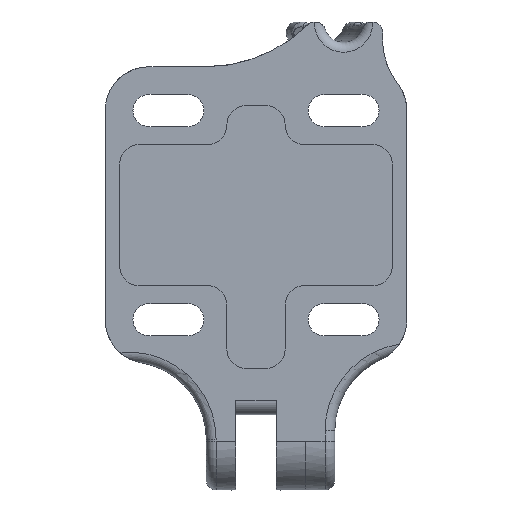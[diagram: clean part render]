
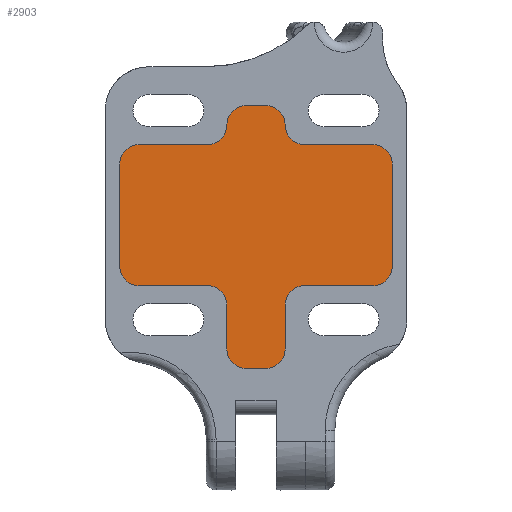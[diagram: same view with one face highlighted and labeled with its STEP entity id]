
A CAD part, front view. The second image highlights one B-rep face of the part: STEP entity #2903.
In plain terms, the highlighted planar face has unit normal (0, -1, 0).
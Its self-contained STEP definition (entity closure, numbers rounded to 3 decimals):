
#978=AXIS2_PLACEMENT_3D('Circle Axis2P3D',#976,#977,$) ;
#1049=AXIS2_PLACEMENT_3D('Circle Axis2P3D',#1047,#1048,$) ;
#1111=AXIS2_PLACEMENT_3D('Circle Axis2P3D',#1109,#1110,$) ;
#1173=AXIS2_PLACEMENT_3D('Circle Axis2P3D',#1171,#1172,$) ;
#1235=AXIS2_PLACEMENT_3D('Circle Axis2P3D',#1233,#1234,$) ;
#1292=AXIS2_PLACEMENT_3D('Circle Axis2P3D',#1290,#1291,$) ;
#1354=AXIS2_PLACEMENT_3D('Circle Axis2P3D',#1352,#1353,$) ;
#1416=AXIS2_PLACEMENT_3D('Circle Axis2P3D',#1414,#1415,$) ;
#1447=AXIS2_PLACEMENT_3D('Circle Axis2P3D',#1445,#1446,$) ;
#1509=AXIS2_PLACEMENT_3D('Circle Axis2P3D',#1507,#1508,$) ;
#1540=AXIS2_PLACEMENT_3D('Circle Axis2P3D',#1538,#1539,$) ;
#1597=AXIS2_PLACEMENT_3D('Circle Axis2P3D',#1595,#1596,$) ;
#2877=AXIS2_PLACEMENT_3D('Plane Axis2P3D',#2874,#2875,#2876) ;
#976=CARTESIAN_POINT('Axis2P3D Location',(-12.,-6.5,18.)) ;
#980=CARTESIAN_POINT('Vertex',(-12.,-6.5,16.)) ;
#982=CARTESIAN_POINT('Vertex',(-14.,-6.5,18.)) ;
#1016=CARTESIAN_POINT('Line Origine',(-8.5,-6.5,16.)) ;
#1020=CARTESIAN_POINT('Vertex',(-5.,-6.5,16.)) ;
#1047=CARTESIAN_POINT('Axis2P3D Location',(-5.,-6.5,14.)) ;
#1051=CARTESIAN_POINT('Vertex',(-3.,-6.5,14.)) ;
#1078=CARTESIAN_POINT('Line Origine',(-3.,-6.5,11.75)) ;
#1082=CARTESIAN_POINT('Vertex',(-3.,-6.5,9.5)) ;
#1109=CARTESIAN_POINT('Axis2P3D Location',(-1.,-6.5,9.5)) ;
#1113=CARTESIAN_POINT('Vertex',(-1.,-6.5,7.5)) ;
#1140=CARTESIAN_POINT('Line Origine',(0.,-6.5,7.5)) ;
#1144=CARTESIAN_POINT('Vertex',(1.,-6.5,7.5)) ;
#1171=CARTESIAN_POINT('Axis2P3D Location',(1.,-6.5,9.5)) ;
#1175=CARTESIAN_POINT('Vertex',(3.,-6.5,9.5)) ;
#1202=CARTESIAN_POINT('Line Origine',(3.,-6.5,11.75)) ;
#1206=CARTESIAN_POINT('Vertex',(3.,-6.5,14.)) ;
#1233=CARTESIAN_POINT('Axis2P3D Location',(5.,-6.5,14.)) ;
#1237=CARTESIAN_POINT('Vertex',(5.,-6.5,16.)) ;
#1259=CARTESIAN_POINT('Line Origine',(8.5,-6.5,16.)) ;
#1263=CARTESIAN_POINT('Vertex',(12.,-6.5,16.)) ;
#1290=CARTESIAN_POINT('Axis2P3D Location',(12.,-6.5,18.)) ;
#1294=CARTESIAN_POINT('Vertex',(14.,-6.5,18.)) ;
#1321=CARTESIAN_POINT('Line Origine',(14.,-6.5,23.25)) ;
#1325=CARTESIAN_POINT('Vertex',(14.,-6.5,28.5)) ;
#1352=CARTESIAN_POINT('Axis2P3D Location',(12.,-6.5,28.5)) ;
#1356=CARTESIAN_POINT('Vertex',(12.,-6.5,30.5)) ;
#1383=CARTESIAN_POINT('Line Origine',(8.5,-6.5,30.5)) ;
#1387=CARTESIAN_POINT('Vertex',(5.,-6.5,30.5)) ;
#1414=CARTESIAN_POINT('Axis2P3D Location',(5.,-6.5,32.5)) ;
#1418=CARTESIAN_POINT('Vertex',(3.,-6.5,32.5)) ;
#1445=CARTESIAN_POINT('Axis2P3D Location',(1.,-6.5,32.5)) ;
#1449=CARTESIAN_POINT('Vertex',(1.,-6.5,34.5)) ;
#1476=CARTESIAN_POINT('Line Origine',(0.,-6.5,34.5)) ;
#1480=CARTESIAN_POINT('Vertex',(-1.,-6.5,34.5)) ;
#1507=CARTESIAN_POINT('Axis2P3D Location',(-1.,-6.5,32.5)) ;
#1511=CARTESIAN_POINT('Vertex',(-3.,-6.5,32.5)) ;
#1538=CARTESIAN_POINT('Axis2P3D Location',(-5.,-6.5,32.5)) ;
#1542=CARTESIAN_POINT('Vertex',(-5.,-6.5,30.5)) ;
#1564=CARTESIAN_POINT('Line Origine',(-8.5,-6.5,30.5)) ;
#1568=CARTESIAN_POINT('Vertex',(-12.,-6.5,30.5)) ;
#1595=CARTESIAN_POINT('Axis2P3D Location',(-12.,-6.5,28.5)) ;
#1599=CARTESIAN_POINT('Vertex',(-14.,-6.5,28.5)) ;
#1626=CARTESIAN_POINT('Line Origine',(-14.,-6.5,23.25)) ;
#2874=CARTESIAN_POINT('Axis2P3D Location',(0.,-6.5,0.)) ;
#977=DIRECTION('Axis2P3D Direction',(0.,1.,-0.)) ;
#1017=DIRECTION('Vector Direction',(1.,0.,0.)) ;
#1048=DIRECTION('Axis2P3D Direction',(0.,1.,-0.)) ;
#1079=DIRECTION('Vector Direction',(0.,0.,-1.)) ;
#1110=DIRECTION('Axis2P3D Direction',(0.,1.,-0.)) ;
#1141=DIRECTION('Vector Direction',(1.,0.,0.)) ;
#1172=DIRECTION('Axis2P3D Direction',(0.,1.,-0.)) ;
#1203=DIRECTION('Vector Direction',(0.,0.,1.)) ;
#1234=DIRECTION('Axis2P3D Direction',(0.,1.,-0.)) ;
#1260=DIRECTION('Vector Direction',(1.,0.,0.)) ;
#1291=DIRECTION('Axis2P3D Direction',(0.,1.,-0.)) ;
#1322=DIRECTION('Vector Direction',(0.,0.,1.)) ;
#1353=DIRECTION('Axis2P3D Direction',(0.,1.,-0.)) ;
#1384=DIRECTION('Vector Direction',(-1.,0.,0.)) ;
#1415=DIRECTION('Axis2P3D Direction',(0.,1.,-0.)) ;
#1446=DIRECTION('Axis2P3D Direction',(0.,1.,-0.)) ;
#1477=DIRECTION('Vector Direction',(-1.,0.,0.)) ;
#1508=DIRECTION('Axis2P3D Direction',(0.,1.,-0.)) ;
#1539=DIRECTION('Axis2P3D Direction',(0.,1.,-0.)) ;
#1565=DIRECTION('Vector Direction',(-1.,0.,0.)) ;
#1596=DIRECTION('Axis2P3D Direction',(0.,1.,-0.)) ;
#1627=DIRECTION('Vector Direction',(0.,0.,-1.)) ;
#2875=DIRECTION('Axis2P3D Direction',(0.,1.,-0.)) ;
#2876=DIRECTION('Axis2P3D XDirection',(-1.,0.,0.)) ;
#1018=VECTOR('Line Direction',#1017,1.) ;
#1080=VECTOR('Line Direction',#1079,1.) ;
#1142=VECTOR('Line Direction',#1141,1.) ;
#1204=VECTOR('Line Direction',#1203,1.) ;
#1261=VECTOR('Line Direction',#1260,1.) ;
#1323=VECTOR('Line Direction',#1322,1.) ;
#1385=VECTOR('Line Direction',#1384,1.) ;
#1478=VECTOR('Line Direction',#1477,1.) ;
#1566=VECTOR('Line Direction',#1565,1.) ;
#1628=VECTOR('Line Direction',#1627,1.) ;
#2880=ORIENTED_EDGE('',*,*,#1630,.F.) ;
#2881=ORIENTED_EDGE('',*,*,#984,.F.) ;
#2882=ORIENTED_EDGE('',*,*,#1022,.F.) ;
#2883=ORIENTED_EDGE('',*,*,#1053,.F.) ;
#2884=ORIENTED_EDGE('',*,*,#1084,.F.) ;
#2885=ORIENTED_EDGE('',*,*,#1115,.F.) ;
#2886=ORIENTED_EDGE('',*,*,#1146,.F.) ;
#2887=ORIENTED_EDGE('',*,*,#1177,.F.) ;
#2888=ORIENTED_EDGE('',*,*,#1208,.F.) ;
#2889=ORIENTED_EDGE('',*,*,#1239,.F.) ;
#2890=ORIENTED_EDGE('',*,*,#1265,.F.) ;
#2891=ORIENTED_EDGE('',*,*,#1296,.F.) ;
#2892=ORIENTED_EDGE('',*,*,#1327,.F.) ;
#2893=ORIENTED_EDGE('',*,*,#1358,.F.) ;
#2894=ORIENTED_EDGE('',*,*,#1389,.F.) ;
#2895=ORIENTED_EDGE('',*,*,#1420,.F.) ;
#2896=ORIENTED_EDGE('',*,*,#1451,.F.) ;
#2897=ORIENTED_EDGE('',*,*,#1482,.F.) ;
#2898=ORIENTED_EDGE('',*,*,#1513,.F.) ;
#2899=ORIENTED_EDGE('',*,*,#1544,.F.) ;
#2900=ORIENTED_EDGE('',*,*,#1570,.F.) ;
#2901=ORIENTED_EDGE('',*,*,#1601,.F.) ;
#2903=ADVANCED_FACE('v3_Inserti_DX',(#2902),#2878,.F.) ;
#979=CIRCLE('generated circle',#978,2.) ;
#1050=CIRCLE('generated circle',#1049,2.) ;
#1112=CIRCLE('generated circle',#1111,2.) ;
#1174=CIRCLE('generated circle',#1173,2.) ;
#1236=CIRCLE('generated circle',#1235,2.) ;
#1293=CIRCLE('generated circle',#1292,2.) ;
#1355=CIRCLE('generated circle',#1354,2.) ;
#1417=CIRCLE('generated circle',#1416,2.) ;
#1448=CIRCLE('generated circle',#1447,2.) ;
#1510=CIRCLE('generated circle',#1509,2.) ;
#1541=CIRCLE('generated circle',#1540,2.) ;
#1598=CIRCLE('generated circle',#1597,2.) ;
#984=EDGE_CURVE('',#981,#983,#979,.T.) ;
#1022=EDGE_CURVE('',#1021,#981,#1019,.F.) ;
#1053=EDGE_CURVE('',#1052,#1021,#1050,.F.) ;
#1084=EDGE_CURVE('',#1083,#1052,#1081,.F.) ;
#1115=EDGE_CURVE('',#1114,#1083,#1112,.T.) ;
#1146=EDGE_CURVE('',#1145,#1114,#1143,.F.) ;
#1177=EDGE_CURVE('',#1176,#1145,#1174,.T.) ;
#1208=EDGE_CURVE('',#1207,#1176,#1205,.F.) ;
#1239=EDGE_CURVE('',#1238,#1207,#1236,.F.) ;
#1265=EDGE_CURVE('',#1264,#1238,#1262,.F.) ;
#1296=EDGE_CURVE('',#1295,#1264,#1293,.T.) ;
#1327=EDGE_CURVE('',#1326,#1295,#1324,.F.) ;
#1358=EDGE_CURVE('',#1357,#1326,#1355,.T.) ;
#1389=EDGE_CURVE('',#1388,#1357,#1386,.F.) ;
#1420=EDGE_CURVE('',#1419,#1388,#1417,.F.) ;
#1451=EDGE_CURVE('',#1450,#1419,#1448,.T.) ;
#1482=EDGE_CURVE('',#1481,#1450,#1479,.F.) ;
#1513=EDGE_CURVE('',#1512,#1481,#1510,.T.) ;
#1544=EDGE_CURVE('',#1543,#1512,#1541,.F.) ;
#1570=EDGE_CURVE('',#1569,#1543,#1567,.F.) ;
#1601=EDGE_CURVE('',#1600,#1569,#1598,.T.) ;
#1630=EDGE_CURVE('',#983,#1600,#1629,.F.) ;
#2879=EDGE_LOOP('',(#2880,#2881,#2882,#2883,#2884,#2885,#2886,#2887,#2888,#2889,#2890,#2891,#2892,#2893,#2894,#2895,#2896,#2897,#2898,#2899,#2900,#2901)) ;
#2902=FACE_OUTER_BOUND('',#2879,.T.) ;
#1019=LINE('Line',#1016,#1018) ;
#1081=LINE('Line',#1078,#1080) ;
#1143=LINE('Line',#1140,#1142) ;
#1205=LINE('Line',#1202,#1204) ;
#1262=LINE('Line',#1259,#1261) ;
#1324=LINE('Line',#1321,#1323) ;
#1386=LINE('Line',#1383,#1385) ;
#1479=LINE('Line',#1476,#1478) ;
#1567=LINE('Line',#1564,#1566) ;
#1629=LINE('Line',#1626,#1628) ;
#2878=PLANE('',#2877) ;
#981=VERTEX_POINT('',#980) ;
#983=VERTEX_POINT('',#982) ;
#1021=VERTEX_POINT('',#1020) ;
#1052=VERTEX_POINT('',#1051) ;
#1083=VERTEX_POINT('',#1082) ;
#1114=VERTEX_POINT('',#1113) ;
#1145=VERTEX_POINT('',#1144) ;
#1176=VERTEX_POINT('',#1175) ;
#1207=VERTEX_POINT('',#1206) ;
#1238=VERTEX_POINT('',#1237) ;
#1264=VERTEX_POINT('',#1263) ;
#1295=VERTEX_POINT('',#1294) ;
#1326=VERTEX_POINT('',#1325) ;
#1357=VERTEX_POINT('',#1356) ;
#1388=VERTEX_POINT('',#1387) ;
#1419=VERTEX_POINT('',#1418) ;
#1450=VERTEX_POINT('',#1449) ;
#1481=VERTEX_POINT('',#1480) ;
#1512=VERTEX_POINT('',#1511) ;
#1543=VERTEX_POINT('',#1542) ;
#1569=VERTEX_POINT('',#1568) ;
#1600=VERTEX_POINT('',#1599) ;
